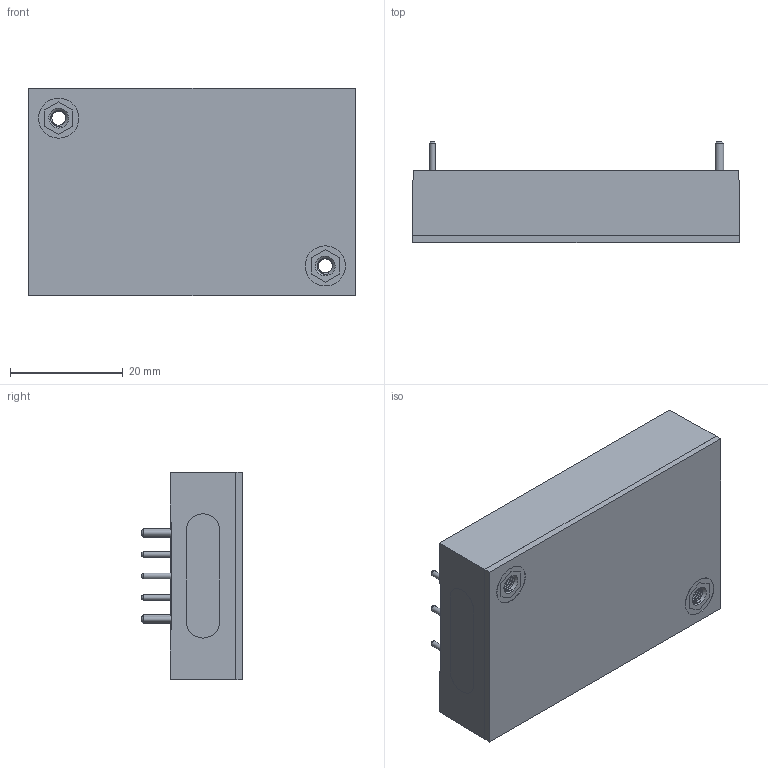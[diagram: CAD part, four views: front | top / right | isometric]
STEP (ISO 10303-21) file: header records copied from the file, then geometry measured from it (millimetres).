
FILE_DESCRIPTION (( 'STEP AP203' ), '1' );
FILE_NAME ('CQB50W12成品圖2023.02.14.STEP', '2023-03-03T03:25:10', ( '' ), ( '' ), 'SwSTEP 2.0', 'SolidWorks 2020', '' );
FILE_SCHEMA (( 'CONFIG_CONTROL_DESIGN' ));
Length unit declared in the file: millimetre
Products named in the file (6): CQB100-110S 鋁板(M-C528-03-J)G66113x0101 G66121x0101; CQB150W CASE(M-C998-00-M)G5113210012_兩孔; CQB50W12成品圖2023.02.14; CQB50W12圓PIN加灌膠2023.02.14; CQB100-110S 鋁板(M-C528-03-J)銅柱 M3x12.7mm
Assembly tree (6 placements, depth 3):
  CQB50W12成品圖2023.02.14
    CQB150W CASE(M-C998-00-M)G5113210012_兩孔
    CQB100-110S 鋁板(M-C528-03-J)G66113x0101 G66121x0101
      CQB100-110S 鋁板(M-C528-03-J)G66113x0101 G66121x0101
      CQB100-110S 鋁板(M-C528-03-J)銅柱 M3x12.7mm  x2
    CQB50W12圓PIN加灌膠2023.02.14
Bounding box: 57.9 x 17.9 x 36.8 mm (x, y, z)
Volume: 26896.6 mm3; surface area: 19681.8 mm2
Topology: 5 solids, 5 shells, 515 faces, 1348 edges, 900 vertices
Faces by surface type: plane 336, bspline 127, cylinder 28, cone 24
Full cylindrical faces by diameter (mm): 1.02 x6, 1.5 x2, 3.9 x2, 4.2 x4, 4.3 x2, 7.1 x2
Entity records: 24538 total; most frequent: CARTESIAN_POINT 12600, ORIENTED_EDGE 2506, DIRECTION 1830, EDGE_CURVE 1253, LINE 904, VECTOR 904, VERTEX_POINT 856, EDGE_LOOP 623
